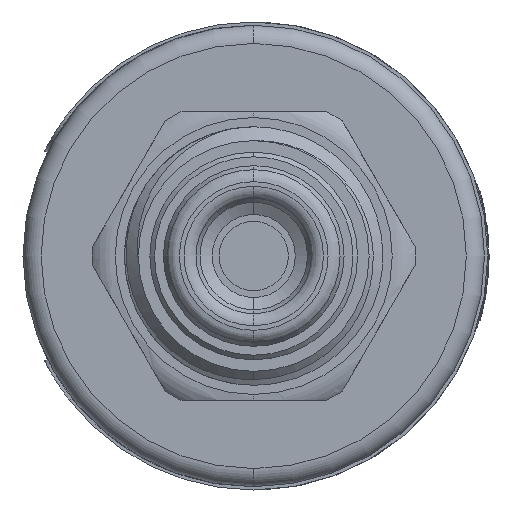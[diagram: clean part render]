
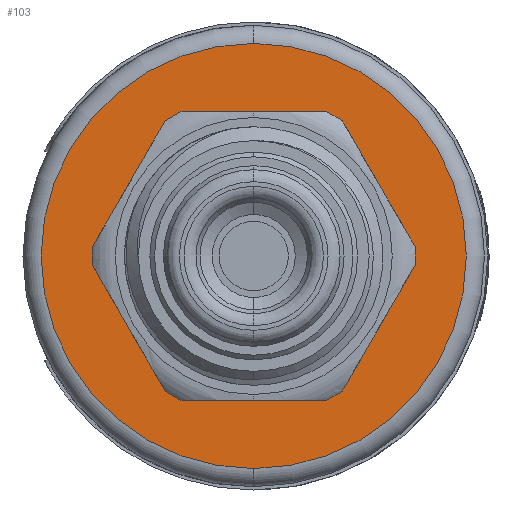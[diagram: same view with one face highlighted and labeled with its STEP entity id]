
A CAD part, front view. The second image highlights one B-rep face of the part: STEP entity #103.
In plain terms, the highlighted planar face has unit normal (0, -1, 0).
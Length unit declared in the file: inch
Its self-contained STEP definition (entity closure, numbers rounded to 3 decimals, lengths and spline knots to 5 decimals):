
#60 = DIRECTION ( 'NONE',  ( 0., -1., 0. ) ) ;
#103 = ADVANCED_FACE ( 'NONE', ( #11611, #2257 ), #5259, .T. ) ;
#640 = AXIS2_PLACEMENT_3D ( 'NONE', #5659, #955, #4684 ) ;
#955 = DIRECTION ( 'NONE',  ( 0., -1., 0. ) ) ;
#1027 = DIRECTION ( 'NONE',  ( 0., 0., -1. ) ) ;
#1314 = DIRECTION ( 'NONE',  ( 0., -1., 0. ) ) ;
#1450 = CIRCLE ( 'NONE', #3006, 0.1875 ) ;
#1798 = CIRCLE ( 'NONE', #640, 0.46063 ) ;
#2216 = AXIS2_PLACEMENT_3D ( 'NONE', #7591, #10418, #3367 ) ;
#2257 = FACE_BOUND ( 'NONE', #11073, .T. ) ;
#3006 = AXIS2_PLACEMENT_3D ( 'NONE', #8712, #1314, #8766 ) ;
#3367 = DIRECTION ( 'NONE',  ( 0., 0., -1. ) ) ;
#3967 = CARTESIAN_POINT ( 'NONE',  ( 0., 0.15748, 0.1875 ) ) ;
#4129 = VERTEX_POINT ( 'NONE', #5948 ) ;
#4684 = DIRECTION ( 'NONE',  ( 0., 0., -1. ) ) ;
#5145 = VERTEX_POINT ( 'NONE', #3967 ) ;
#5259 = PLANE ( 'NONE',  #10243 ) ;
#5659 = CARTESIAN_POINT ( 'NONE',  ( 0., 0.15748, 0. ) ) ;
#5948 = CARTESIAN_POINT ( 'NONE',  ( 0., 0.15748, -0.46063 ) ) ;
#5966 = ORIENTED_EDGE ( 'NONE', *, *, #11751, .F. ) ;
#6618 = EDGE_LOOP ( 'NONE', ( #8349, #9875 ) ) ;
#6880 = EDGE_CURVE ( 'NONE', #11505, #4129, #1798, .T. ) ;
#7293 = CIRCLE ( 'NONE', #11774, 0.46063 ) ;
#7591 = CARTESIAN_POINT ( 'NONE',  ( 0., 0.15748, 0. ) ) ;
#8034 = ORIENTED_EDGE ( 'NONE', *, *, #8976, .F. ) ;
#8066 = DIRECTION ( 'NONE',  ( 0., 0., -1. ) ) ;
#8349 = ORIENTED_EDGE ( 'NONE', *, *, #11071, .T. ) ;
#8712 = CARTESIAN_POINT ( 'NONE',  ( 0., 0.15748, 0. ) ) ;
#8766 = DIRECTION ( 'NONE',  ( 0., 0., -1. ) ) ;
#8832 = CARTESIAN_POINT ( 'NONE',  ( 0., 0.15748, -0.1875 ) ) ;
#8976 = EDGE_CURVE ( 'NONE', #10322, #5145, #11191, .T. ) ;
#9086 = CARTESIAN_POINT ( 'NONE',  ( 0., 0.15748, 0.46063 ) ) ;
#9875 = ORIENTED_EDGE ( 'NONE', *, *, #6880, .T. ) ;
#9904 = DIRECTION ( 'NONE',  ( 0., -1., 0. ) ) ;
#10243 = AXIS2_PLACEMENT_3D ( 'NONE', #11547, #9904, #8066 ) ;
#10322 = VERTEX_POINT ( 'NONE', #8832 ) ;
#10323 = CARTESIAN_POINT ( 'NONE',  ( 0., 0.15748, 0. ) ) ;
#10418 = DIRECTION ( 'NONE',  ( 0., -1., 0. ) ) ;
#11071 = EDGE_CURVE ( 'NONE', #4129, #11505, #7293, .T. ) ;
#11073 = EDGE_LOOP ( 'NONE', ( #8034, #5966 ) ) ;
#11191 = CIRCLE ( 'NONE', #2216, 0.1875 ) ;
#11505 = VERTEX_POINT ( 'NONE', #9086 ) ;
#11547 = CARTESIAN_POINT ( 'NONE',  ( 0., 0.15748, 0. ) ) ;
#11611 = FACE_OUTER_BOUND ( 'NONE', #6618, .T. ) ;
#11751 = EDGE_CURVE ( 'NONE', #5145, #10322, #1450, .T. ) ;
#11774 = AXIS2_PLACEMENT_3D ( 'NONE', #10323, #60, #1027 ) ;
